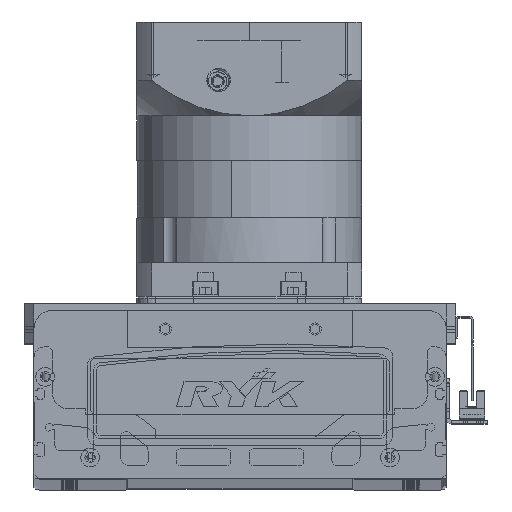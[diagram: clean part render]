
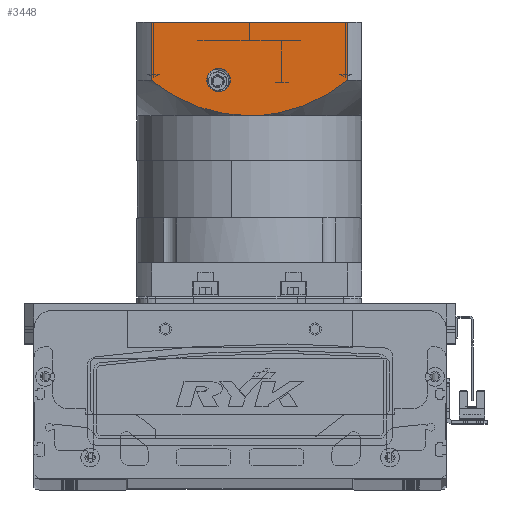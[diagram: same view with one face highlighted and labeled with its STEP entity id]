
A CAD part, top view. The second image highlights one B-rep face of the part: STEP entity #3448.
In plain terms, the highlighted planar face has unit normal (0, 0, 1) as drawn and (0, -1, 0) by its records, which use the part's own axes.
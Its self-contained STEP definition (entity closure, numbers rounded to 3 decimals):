
#126 = CARTESIAN_POINT ( 'NONE',  ( 32.196, -60., -107.007 ) ) ;
#373 = CARTESIAN_POINT ( 'NONE',  ( 25.577, -60., -104.596 ) ) ;
#521 = EDGE_LOOP ( 'NONE', ( #66778, #66649, #30679, #12129, #39786 ) ) ;
#609 = CARTESIAN_POINT ( 'NONE',  ( 36.444, -60., -108.986 ) ) ;
#864 = CARTESIAN_POINT ( 'NONE',  ( -60., -60., -150.5 ) ) ;
#1376 = CARTESIAN_POINT ( 'NONE',  ( 52.156, -60., -119.5 ) ) ;
#2460 = CARTESIAN_POINT ( 'NONE',  ( -44.656, -60., -113.73 ) ) ;
#2775 = CARTESIAN_POINT ( 'NONE',  ( 16.5, -60., -113.25 ) ) ;
#3448 = ADVANCED_FACE ( 'NONE', ( #57629, #11626 ), #42858, .T. ) ;
#3744 = CARTESIAN_POINT ( 'NONE',  ( 0., -60., -100.5 ) ) ;
#4926 = VECTOR ( 'NONE', #12751, 1000. ) ;
#6447 = CARTESIAN_POINT ( 'NONE',  ( 23.329, -60., -103.886 ) ) ;
#7535 = CARTESIAN_POINT ( 'NONE',  ( -29.939, -60., -106.183 ) ) ;
#8090 = DIRECTION ( 'NONE',  ( 1., 0., 0. ) ) ;
#10799 = AXIS2_PLACEMENT_3D ( 'NONE', #49174, #61307, #32802 ) ;
#11626 = FACE_BOUND ( 'NONE', #20927, .T. ) ;
#12129 = ORIENTED_EDGE ( 'NONE', *, *, #44711, .F. ) ;
#12259 = CARTESIAN_POINT ( 'NONE',  ( 18.739, -60., -102.681 ) ) ;
#12751 = DIRECTION ( 'NONE',  ( 1., 0., 0. ) ) ;
#13840 = CARTESIAN_POINT ( 'NONE',  ( -39.546, -60., -110.776 ) ) ;
#14090 = CARTESIAN_POINT ( 'NONE',  ( -12.993, -60., -101.537 ) ) ;
#17054 = EDGE_CURVE ( 'NONE', #74184, #22719, #62711, .T. ) ;
#17311 = LINE ( 'NONE', #36354, #56125 ) ;
#18470 = EDGE_CURVE ( 'NONE', #46352, #63403, #52521, .T. ) ;
#19124 = ORIENTED_EDGE ( 'NONE', *, *, #18470, .T. ) ;
#19431 = DIRECTION ( 'NONE',  ( 0., 0., -1. ) ) ;
#19432 = CARTESIAN_POINT ( 'NONE',  ( -60., -60., -150.5 ) ) ;
#19633 = CARTESIAN_POINT ( 'NONE',  ( -9.477, -60., -101.046 ) ) ;
#20927 = EDGE_LOOP ( 'NONE', ( #38251, #19124 ) ) ;
#22719 = VERTEX_POINT ( 'NONE', #74514 ) ;
#23364 = CARTESIAN_POINT ( 'NONE',  ( 16.426, -60., -102.169 ) ) ;
#24938 = CARTESIAN_POINT ( 'NONE',  ( -11.825, -60., -101.356 ) ) ;
#25192 = CARTESIAN_POINT ( 'NONE',  ( -36.409, -60., -109.113 ) ) ;
#25431 = CARTESIAN_POINT ( 'NONE',  ( -52.156, -60., -119.5 ) ) ;
#28450 = CARTESIAN_POINT ( 'NONE',  ( 15.267, -60., -101.938 ) ) ;
#28701 = CARTESIAN_POINT ( 'NONE',  ( 48.457, -60., -116.522 ) ) ;
#29443 = AXIS2_PLACEMENT_3D ( 'NONE', #19432, #71435, #8090 ) ;
#29646 = CARTESIAN_POINT ( 'NONE',  ( 19.894, -60., -102.964 ) ) ;
#30679 = ORIENTED_EDGE ( 'NONE', *, *, #46288, .T. ) ;
#30730 = CARTESIAN_POINT ( 'NONE',  ( -8.294, -60., -100.916 ) ) ;
#31037 = CARTESIAN_POINT ( 'NONE',  ( 16.5, -60., -119.5 ) ) ;
#32802 = DIRECTION ( 'NONE',  ( 0., 0., -1. ) ) ;
#33730 = CARTESIAN_POINT ( 'NONE',  ( 0., -60., -100.5 ) ) ;
#36354 = CARTESIAN_POINT ( 'NONE',  ( 52.156, -60., -150.5 ) ) ;
#36531 = CARTESIAN_POINT ( 'NONE',  ( 0., -60., -100.5 ) ) ;
#37276 = CARTESIAN_POINT ( 'NONE',  ( -48.52, -60., -116.438 ) ) ;
#38251 = ORIENTED_EDGE ( 'NONE', *, *, #48271, .T. ) ;
#39628 = VERTEX_POINT ( 'NONE', #1376 ) ;
#39786 = ORIENTED_EDGE ( 'NONE', *, *, #40582, .F. ) ;
#40579 = CARTESIAN_POINT ( 'NONE',  ( -52.156, -60., -150.5 ) ) ;
#40582 = EDGE_CURVE ( 'NONE', #55198, #41577, #70107, .T. ) ;
#40971 = CARTESIAN_POINT ( 'NONE',  ( 50.338, -60., -117.969 ) ) ;
#41577 = VERTEX_POINT ( 'NONE', #3744 ) ;
#42858 = PLANE ( 'NONE',  #29443 ) ;
#44711 = EDGE_CURVE ( 'NONE', #41577, #39628, #47398, .T. ) ;
#44844 = DIRECTION ( 'NONE',  ( 0., 0., 1. ) ) ;
#45544 = CARTESIAN_POINT ( 'NONE',  ( 9.454, -60., -100.914 ) ) ;
#46273 = CARTESIAN_POINT ( 'NONE',  ( 45.542, -60., -114.478 ) ) ;
#46288 = EDGE_CURVE ( 'NONE', #22719, #39628, #17311, .T. ) ;
#46352 = VERTEX_POINT ( 'NONE', #2775 ) ;
#46762 = CARTESIAN_POINT ( 'NONE',  ( 42.555, -60., -112.543 ) ) ;
#47398 = B_SPLINE_CURVE_WITH_KNOTS ( 'NONE', 3,
 ( #33730, #55399, #45544, #28450, #23364, #12259, #29646, #6447, #373, #126, #609, #52337, #46762, #58396, #46273, #28701, #40971, #52580 ),
 .UNSPECIFIED., .F., .F.,
 ( 4, 2, 2, 2, 2, 2, 2, 2, 4 ),
 ( 0., 0.014, 0.018, 0.021, 0.028, 0.042, 0.046, 0.05, 0.057 ),
 .UNSPECIFIED. ) ;
#48271 = EDGE_CURVE ( 'NONE', #63403, #46352, #57610, .T. ) ;
#48420 = EDGE_CURVE ( 'NONE', #74184, #55198, #59439, .T. ) ;
#48561 = VECTOR ( 'NONE', #44844, 1000. ) ;
#48600 = CARTESIAN_POINT ( 'NONE',  ( -23.319, -60., -103.777 ) ) ;
#49174 = CARTESIAN_POINT ( 'NONE',  ( 16.5, -60., -119.5 ) ) ;
#49395 = DIRECTION ( 'NONE',  ( 0., 1., 0. ) ) ;
#52337 = CARTESIAN_POINT ( 'NONE',  ( 41.545, -60., -111.931 ) ) ;
#52521 = CIRCLE ( 'NONE', #10799, 6.25 ) ;
#52580 = CARTESIAN_POINT ( 'NONE',  ( 52.156, -60., -119.5 ) ) ;
#54100 = CARTESIAN_POINT ( 'NONE',  ( -52.156, -60., -119.5 ) ) ;
#54235 = DIRECTION ( 'NONE',  ( 0., 0., 1. ) ) ;
#54671 = CARTESIAN_POINT ( 'NONE',  ( -38.51, -60., -110.207 ) ) ;
#55198 = VERTEX_POINT ( 'NONE', #54100 ) ;
#55399 = CARTESIAN_POINT ( 'NONE',  ( 4.753, -60., -100.5 ) ) ;
#56125 = VECTOR ( 'NONE', #54235, 1000. ) ;
#57610 = CIRCLE ( 'NONE', #61224, 6.25 ) ;
#57629 = FACE_OUTER_BOUND ( 'NONE', #521, .T. ) ;
#58396 = CARTESIAN_POINT ( 'NONE',  ( 44.553, -60., -113.817 ) ) ;
#59439 = LINE ( 'NONE', #61794, #48561 ) ;
#60004 = CARTESIAN_POINT ( 'NONE',  ( -4.747, -60., -100.604 ) ) ;
#61224 = AXIS2_PLACEMENT_3D ( 'NONE', #31037, #49395, #19431 ) ;
#61307 = DIRECTION ( 'NONE',  ( 0., 1., 0. ) ) ;
#61794 = CARTESIAN_POINT ( 'NONE',  ( -52.156, -60., -97.5 ) ) ;
#62711 = LINE ( 'NONE', #864, #4926 ) ;
#63403 = VERTEX_POINT ( 'NONE', #65145 ) ;
#65145 = CARTESIAN_POINT ( 'NONE',  ( 16.5, -60., -125.75 ) ) ;
#65808 = CARTESIAN_POINT ( 'NONE',  ( -18.792, -60., -102.562 ) ) ;
#66649 = ORIENTED_EDGE ( 'NONE', *, *, #17054, .T. ) ;
#66778 = ORIENTED_EDGE ( 'NONE', *, *, #48420, .F. ) ;
#70107 = B_SPLINE_CURVE_WITH_KNOTS ( 'NONE', 3,
 ( #25431, #37276, #2460, #13840, #54671, #25192, #71137, #70882, #7535, #48600, #65808, #14090, #24938, #19633, #30730, #60004, #71381, #36531 ),
 .UNSPECIFIED., .F., .F.,
 ( 4, 2, 2, 2, 2, 2, 2, 2, 4 ),
 ( 0., 0.014, 0.018, 0.021, 0.028, 0.042, 0.046, 0.05, 0.057 ),
 .UNSPECIFIED. ) ;
#70882 = CARTESIAN_POINT ( 'NONE',  ( -32.118, -60., -107.084 ) ) ;
#71137 = CARTESIAN_POINT ( 'NONE',  ( -35.342, -60., -108.587 ) ) ;
#71381 = CARTESIAN_POINT ( 'NONE',  ( -2.376, -60., -100.5 ) ) ;
#71435 = DIRECTION ( 'NONE',  ( 0., -1., 0. ) ) ;
#74184 = VERTEX_POINT ( 'NONE', #40579 ) ;
#74514 = CARTESIAN_POINT ( 'NONE',  ( 52.156, -60., -150.5 ) ) ;
